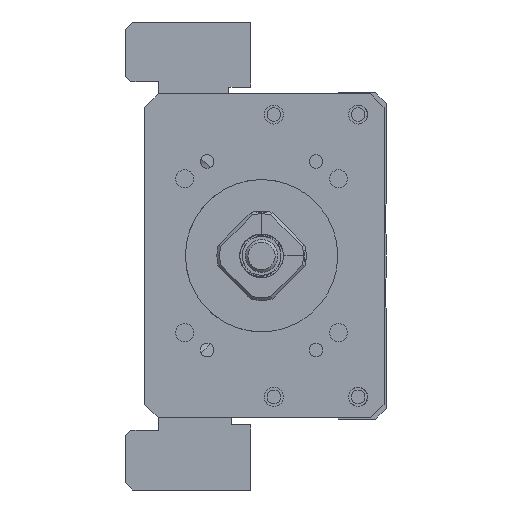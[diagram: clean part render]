
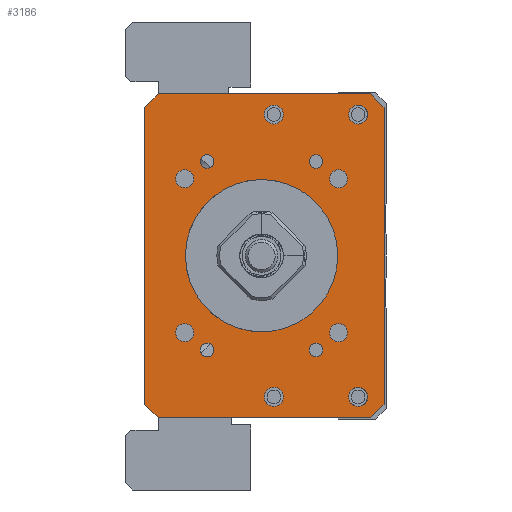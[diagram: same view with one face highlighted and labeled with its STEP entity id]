
A CAD part, left-side view. The second image highlights one B-rep face of the part: STEP entity #3186.
In plain terms, the highlighted planar face has unit normal (-1, 0, 0).
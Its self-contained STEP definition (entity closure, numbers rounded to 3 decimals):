
#333=LINE('',#16025,#1228);
#335=LINE('',#16049,#1230);
#336=LINE('',#16051,#1231);
#337=LINE('',#16053,#1232);
#338=LINE('',#16055,#1233);
#339=LINE('',#16057,#1234);
#340=LINE('',#16059,#1235);
#341=LINE('',#16061,#1236);
#1228=VECTOR('',#12793,1.);
#1230=VECTOR('',#12817,1.);
#1231=VECTOR('',#12818,1.);
#1232=VECTOR('',#12819,1.);
#1233=VECTOR('',#12820,1.);
#1234=VECTOR('',#12821,1.);
#1235=VECTOR('',#12822,1.);
#1236=VECTOR('',#12823,1.);
#2620=PLANE('',#11517);
#3186=ADVANCED_FACE('',(#4056,#4057,#4058,#4059,#4060,#4061,#4062,#4063,
#4064,#4065,#4066,#4067,#4068,#4069),#2620,.F.);
#4056=FACE_BOUND('',#4600,.T.);
#4057=FACE_BOUND('',#4601,.T.);
#4058=FACE_BOUND('',#4602,.T.);
#4059=FACE_BOUND('',#4603,.T.);
#4060=FACE_BOUND('',#4604,.T.);
#4061=FACE_BOUND('',#4605,.T.);
#4062=FACE_BOUND('',#4606,.T.);
#4063=FACE_BOUND('',#4607,.T.);
#4064=FACE_BOUND('',#4608,.T.);
#4065=FACE_BOUND('',#4609,.T.);
#4066=FACE_BOUND('',#4610,.T.);
#4067=FACE_BOUND('',#4611,.T.);
#4068=FACE_BOUND('',#4612,.T.);
#4069=FACE_BOUND('',#4613,.T.);
#4600=EDGE_LOOP('',(#5714));
#4601=EDGE_LOOP('',(#5715));
#4602=EDGE_LOOP('',(#5716));
#4603=EDGE_LOOP('',(#5717));
#4604=EDGE_LOOP('',(#5718));
#4605=EDGE_LOOP('',(#5719));
#4606=EDGE_LOOP('',(#5720));
#4607=EDGE_LOOP('',(#5721));
#4608=EDGE_LOOP('',(#5722));
#4609=EDGE_LOOP('',(#5723,#5724,#5725,#5726,#5727,#5728,#5729,#5730));
#4610=EDGE_LOOP('',(#5731));
#4611=EDGE_LOOP('',(#5732));
#4612=EDGE_LOOP('',(#5733));
#4613=EDGE_LOOP('',(#5734));
#5714=ORIENTED_EDGE('',*,*,#9638,.F.);
#5715=ORIENTED_EDGE('',*,*,#9639,.F.);
#5716=ORIENTED_EDGE('',*,*,#9640,.F.);
#5717=ORIENTED_EDGE('',*,*,#9641,.F.);
#5718=ORIENTED_EDGE('',*,*,#9642,.F.);
#5719=ORIENTED_EDGE('',*,*,#9643,.T.);
#5720=ORIENTED_EDGE('',*,*,#9644,.F.);
#5721=ORIENTED_EDGE('',*,*,#9645,.F.);
#5722=ORIENTED_EDGE('',*,*,#9646,.F.);
#5723=ORIENTED_EDGE('',*,*,#9635,.T.);
#5724=ORIENTED_EDGE('',*,*,#9647,.T.);
#5725=ORIENTED_EDGE('',*,*,#9648,.F.);
#5726=ORIENTED_EDGE('',*,*,#9649,.T.);
#5727=ORIENTED_EDGE('',*,*,#9650,.F.);
#5728=ORIENTED_EDGE('',*,*,#9651,.T.);
#5729=ORIENTED_EDGE('',*,*,#9652,.T.);
#5730=ORIENTED_EDGE('',*,*,#9653,.T.);
#5731=ORIENTED_EDGE('',*,*,#9654,.F.);
#5732=ORIENTED_EDGE('',*,*,#9655,.F.);
#5733=ORIENTED_EDGE('',*,*,#9656,.F.);
#5734=ORIENTED_EDGE('',*,*,#9615,.F.);
#8529=VERTEX_POINT('',#15964);
#8549=VERTEX_POINT('',#16024);
#8550=VERTEX_POINT('',#16026);
#8552=VERTEX_POINT('',#16032);
#8553=VERTEX_POINT('',#16034);
#8554=VERTEX_POINT('',#16036);
#8555=VERTEX_POINT('',#16038);
#8556=VERTEX_POINT('',#16040);
#8557=VERTEX_POINT('',#16042);
#8558=VERTEX_POINT('',#16044);
#8559=VERTEX_POINT('',#16046);
#8560=VERTEX_POINT('',#16048);
#8561=VERTEX_POINT('',#16050);
#8562=VERTEX_POINT('',#16052);
#8563=VERTEX_POINT('',#16054);
#8564=VERTEX_POINT('',#16056);
#8565=VERTEX_POINT('',#16058);
#8566=VERTEX_POINT('',#16060);
#8567=VERTEX_POINT('',#16063);
#8568=VERTEX_POINT('',#16065);
#8569=VERTEX_POINT('',#16067);
#9615=EDGE_CURVE('',#8529,#8529,#11031,.T.);
#9635=EDGE_CURVE('',#8550,#8549,#333,.T.);
#9638=EDGE_CURVE('',#8552,#8552,#11040,.T.);
#9639=EDGE_CURVE('',#8553,#8553,#11041,.T.);
#9640=EDGE_CURVE('',#8554,#8554,#11042,.T.);
#9641=EDGE_CURVE('',#8555,#8555,#11043,.T.);
#9642=EDGE_CURVE('',#8556,#8556,#11044,.T.);
#9643=EDGE_CURVE('',#8557,#8557,#11045,.T.);
#9644=EDGE_CURVE('',#8558,#8558,#11046,.T.);
#9645=EDGE_CURVE('',#8559,#8559,#11047,.T.);
#9646=EDGE_CURVE('',#8560,#8560,#11048,.T.);
#9647=EDGE_CURVE('',#8549,#8561,#335,.T.);
#9648=EDGE_CURVE('',#8562,#8561,#336,.T.);
#9649=EDGE_CURVE('',#8562,#8563,#337,.T.);
#9650=EDGE_CURVE('',#8564,#8563,#338,.T.);
#9651=EDGE_CURVE('',#8564,#8565,#339,.T.);
#9652=EDGE_CURVE('',#8565,#8566,#340,.T.);
#9653=EDGE_CURVE('',#8566,#8550,#341,.T.);
#9654=EDGE_CURVE('',#8567,#8567,#11049,.T.);
#9655=EDGE_CURVE('',#8568,#8568,#11050,.T.);
#9656=EDGE_CURVE('',#8569,#8569,#11051,.T.);
#11031=CIRCLE('',#11494,14.);
#11040=CIRCLE('',#11505,1.65);
#11041=CIRCLE('',#11506,1.65);
#11042=CIRCLE('',#11507,1.65);
#11043=CIRCLE('',#11508,1.65);
#11044=CIRCLE('',#11509,1.25);
#11045=CIRCLE('',#11510,1.75);
#11046=CIRCLE('',#11511,1.25);
#11047=CIRCLE('',#11512,1.75);
#11048=CIRCLE('',#11513,1.25);
#11049=CIRCLE('',#11514,1.75);
#11050=CIRCLE('',#11515,1.75);
#11051=CIRCLE('',#11516,1.25);
#11494=AXIS2_PLACEMENT_3D('',#15963,#12767,#12768);
#11505=AXIS2_PLACEMENT_3D('',#16031,#12799,#12800);
#11506=AXIS2_PLACEMENT_3D('',#16033,#12801,#12802);
#11507=AXIS2_PLACEMENT_3D('',#16035,#12803,#12804);
#11508=AXIS2_PLACEMENT_3D('',#16037,#12805,#12806);
#11509=AXIS2_PLACEMENT_3D('',#16039,#12807,#12808);
#11510=AXIS2_PLACEMENT_3D('',#16041,#12809,#12810);
#11511=AXIS2_PLACEMENT_3D('',#16043,#12811,#12812);
#11512=AXIS2_PLACEMENT_3D('',#16045,#12813,#12814);
#11513=AXIS2_PLACEMENT_3D('',#16047,#12815,#12816);
#11514=AXIS2_PLACEMENT_3D('',#16062,#12824,#12825);
#11515=AXIS2_PLACEMENT_3D('',#16064,#12826,#12827);
#11516=AXIS2_PLACEMENT_3D('',#16066,#12828,#12829);
#11517=AXIS2_PLACEMENT_3D('',#16068,#12830,#12831);
#12767=DIRECTION('',(-1.,0.,0.));
#12768=DIRECTION('',(0.,1.,0.));
#12793=DIRECTION('',(0.,0.,-1.));
#12799=DIRECTION('',(-1.,0.,0.));
#12800=DIRECTION('',(0.,0.,1.));
#12801=DIRECTION('',(-1.,0.,0.));
#12802=DIRECTION('',(0.,0.,1.));
#12803=DIRECTION('',(-1.,0.,0.));
#12804=DIRECTION('',(0.,0.,1.));
#12805=DIRECTION('',(-1.,0.,0.));
#12806=DIRECTION('',(0.,0.,1.));
#12807=DIRECTION('',(-1.,0.,0.));
#12808=DIRECTION('',(0.,1.,0.));
#12809=DIRECTION('',(1.,0.,0.));
#12810=DIRECTION('',(0.,0.,1.));
#12811=DIRECTION('',(-1.,0.,0.));
#12812=DIRECTION('',(0.,1.,0.));
#12813=DIRECTION('',(-1.,0.,0.));
#12814=DIRECTION('',(0.,0.,1.));
#12815=DIRECTION('',(-1.,0.,0.));
#12816=DIRECTION('',(0.,1.,0.));
#12817=DIRECTION('',(0.,-0.707,-0.707));
#12818=DIRECTION('',(0.,1.,0.));
#12819=DIRECTION('',(0.,-0.707,0.707));
#12820=DIRECTION('',(0.,0.,-1.));
#12821=DIRECTION('',(0.,0.707,0.707));
#12822=DIRECTION('',(0.,1.,0.));
#12823=DIRECTION('',(0.,0.707,-0.707));
#12824=DIRECTION('',(-1.,0.,0.));
#12825=DIRECTION('',(0.,0.,1.));
#12826=DIRECTION('',(-1.,0.,0.));
#12827=DIRECTION('',(0.,0.,1.));
#12828=DIRECTION('',(-1.,0.,0.));
#12829=DIRECTION('',(0.,1.,0.));
#12830=DIRECTION('',(1.,0.,0.));
#12831=DIRECTION('',(0.,1.,0.));
#15963=CARTESIAN_POINT('',(-211.,0.,-300.));
#15964=CARTESIAN_POINT('',(-211.,14.,-300.));
#16024=CARTESIAN_POINT('',(-211.,21.499,-327.25));
#16025=CARTESIAN_POINT('',(-211.,21.499,-270.25));
#16026=CARTESIAN_POINT('',(-211.,21.499,-272.75));
#16031=CARTESIAN_POINT('',(-211.,14.142,-285.858));
#16032=CARTESIAN_POINT('',(-211.,14.142,-284.208));
#16033=CARTESIAN_POINT('',(-211.,-14.142,-285.858));
#16034=CARTESIAN_POINT('',(-211.,-14.142,-284.208));
#16035=CARTESIAN_POINT('',(-211.,14.142,-314.142));
#16036=CARTESIAN_POINT('',(-211.,14.142,-312.492));
#16037=CARTESIAN_POINT('',(-211.,-14.142,-314.142));
#16038=CARTESIAN_POINT('',(-211.,-14.142,-312.492));
#16039=CARTESIAN_POINT('',(-211.,-10.,-317.321));
#16040=CARTESIAN_POINT('',(-211.,-8.75,-317.321));
#16041=CARTESIAN_POINT('',(-211.,-2.25,-325.936));
#16042=CARTESIAN_POINT('',(-211.,-2.25,-324.186));
#16043=CARTESIAN_POINT('',(-211.,10.,-282.679));
#16044=CARTESIAN_POINT('',(-211.,11.25,-282.679));
#16045=CARTESIAN_POINT('',(-211.,-2.25,-274.064));
#16046=CARTESIAN_POINT('',(-211.,-2.25,-272.314));
#16047=CARTESIAN_POINT('',(-211.,10.,-317.321));
#16048=CARTESIAN_POINT('',(-211.,11.25,-317.321));
#16049=CARTESIAN_POINT('',(-211.,18.999,-329.75));
#16050=CARTESIAN_POINT('',(-211.,18.999,-329.75));
#16051=CARTESIAN_POINT('',(-211.,-22.501,-329.75));
#16052=CARTESIAN_POINT('',(-211.,-20.001,-329.75));
#16053=CARTESIAN_POINT('',(-211.,-22.501,-327.25));
#16054=CARTESIAN_POINT('',(-211.,-22.501,-327.25));
#16055=CARTESIAN_POINT('',(-211.,-22.501,-270.25));
#16056=CARTESIAN_POINT('',(-211.,-22.501,-272.75));
#16057=CARTESIAN_POINT('',(-211.,-22.501,-272.75));
#16058=CARTESIAN_POINT('',(-211.,-20.001,-270.25));
#16059=CARTESIAN_POINT('',(-211.,-22.501,-270.25));
#16060=CARTESIAN_POINT('',(-211.,18.999,-270.25));
#16061=CARTESIAN_POINT('',(-211.,18.999,-270.25));
#16062=CARTESIAN_POINT('',(-211.,-17.75,-274.064));
#16063=CARTESIAN_POINT('',(-211.,-17.75,-272.314));
#16064=CARTESIAN_POINT('',(-211.,-17.75,-325.936));
#16065=CARTESIAN_POINT('',(-211.,-17.75,-324.186));
#16066=CARTESIAN_POINT('',(-211.,-10.,-282.679));
#16067=CARTESIAN_POINT('',(-211.,-8.75,-282.679));
#16068=CARTESIAN_POINT('',(-211.,-22.501,-270.25));
